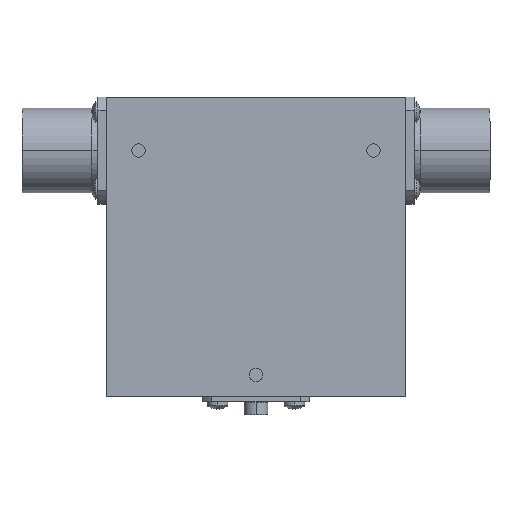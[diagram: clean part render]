
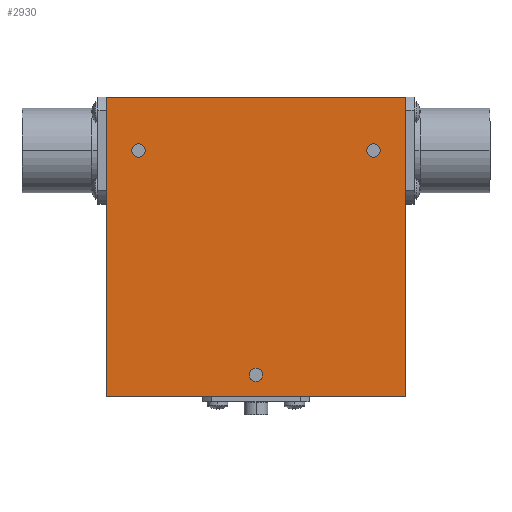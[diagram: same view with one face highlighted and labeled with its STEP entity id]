
A CAD part, top view. The second image highlights one B-rep face of the part: STEP entity #2930.
In plain terms, the highlighted planar face has unit normal (0, 0, 1).
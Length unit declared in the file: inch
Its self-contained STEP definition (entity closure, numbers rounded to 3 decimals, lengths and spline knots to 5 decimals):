
#111 = CARTESIAN_POINT ( 'NONE',  ( -1.4, 1.4, 0.5 ) ) ;
#116 = CARTESIAN_POINT ( 'NONE',  ( 1.1, 0.9, 0.5 ) ) ;
#151 = DIRECTION ( 'NONE',  ( 0., 1., 0. ) ) ;
#250 = CIRCLE ( 'NONE', #413, 0.0625 ) ;
#261 = CARTESIAN_POINT ( 'NONE',  ( -1.1, 0.9, 0.5 ) ) ;
#359 = DIRECTION ( 'NONE',  ( 0., 0., 1. ) ) ;
#370 = EDGE_CURVE ( 'NONE', #1626, #1276, #250, .T. ) ;
#390 = ORIENTED_EDGE ( 'NONE', *, *, #3705, .F. ) ;
#413 = AXIS2_PLACEMENT_3D ( 'NONE', #116, #3148, #1326 ) ;
#522 = ORIENTED_EDGE ( 'NONE', *, *, #2599, .T. ) ;
#555 = ORIENTED_EDGE ( 'NONE', *, *, #2412, .F. ) ;
#580 = DIRECTION ( 'NONE',  ( 1., 0., 0. ) ) ;
#749 = DIRECTION ( 'NONE',  ( 0., 0., 1. ) ) ;
#761 = DIRECTION ( 'NONE',  ( 1., 0., 0. ) ) ;
#801 = CARTESIAN_POINT ( 'NONE',  ( 1.4, 1.4, 0.5 ) ) ;
#843 = CARTESIAN_POINT ( 'NONE',  ( -1.4, -1.4, 0.5 ) ) ;
#901 = AXIS2_PLACEMENT_3D ( 'NONE', #261, #3087, #580 ) ;
#973 = DIRECTION ( 'NONE',  ( 1., 0., 0. ) ) ;
#1013 = CARTESIAN_POINT ( 'NONE',  ( 0., -1.2, 0.5 ) ) ;
#1041 = CARTESIAN_POINT ( 'NONE',  ( 1.0375, 0.9, 0.5 ) ) ;
#1116 = VERTEX_POINT ( 'NONE', #1502 ) ;
#1125 = CIRCLE ( 'NONE', #2509, 0.0625 ) ;
#1160 = EDGE_CURVE ( 'NONE', #3751, #1116, #1125, .T. ) ;
#1216 = EDGE_LOOP ( 'NONE', ( #1911, #3565 ) ) ;
#1253 = DIRECTION ( 'NONE',  ( 1., 0., 0. ) ) ;
#1276 = VERTEX_POINT ( 'NONE', #2421 ) ;
#1283 = CARTESIAN_POINT ( 'NONE',  ( -1.4, -1.4, 0.5 ) ) ;
#1311 = VERTEX_POINT ( 'NONE', #3945 ) ;
#1326 = DIRECTION ( 'NONE',  ( 1., 0., 0. ) ) ;
#1349 = EDGE_CURVE ( 'NONE', #1276, #1626, #2978, .T. ) ;
#1354 = VECTOR ( 'NONE', #151, 39.37008 ) ;
#1393 = EDGE_LOOP ( 'NONE', ( #1680, #1882 ) ) ;
#1404 = EDGE_CURVE ( 'NONE', #1731, #2043, #3269, .T. ) ;
#1407 = CARTESIAN_POINT ( 'NONE',  ( -1.4, 1.4, 0.5 ) ) ;
#1415 = CARTESIAN_POINT ( 'NONE',  ( 0., -1.2, 0.5 ) ) ;
#1502 = CARTESIAN_POINT ( 'NONE',  ( -1.0375, 0.9, 0.5 ) ) ;
#1518 = EDGE_LOOP ( 'NONE', ( #390, #555 ) ) ;
#1521 = LINE ( 'NONE', #3314, #3869 ) ;
#1528 = CARTESIAN_POINT ( 'NONE',  ( 0., 0., 0.5 ) ) ;
#1531 = FACE_BOUND ( 'NONE', #1518, .T. ) ;
#1622 = VERTEX_POINT ( 'NONE', #111 ) ;
#1626 = VERTEX_POINT ( 'NONE', #1041 ) ;
#1680 = ORIENTED_EDGE ( 'NONE', *, *, #1349, .F. ) ;
#1731 = VERTEX_POINT ( 'NONE', #843 ) ;
#1785 = ORIENTED_EDGE ( 'NONE', *, *, #2521, .T. ) ;
#1788 = CARTESIAN_POINT ( 'NONE',  ( 1.4, 1.4, 0.5 ) ) ;
#1825 = ORIENTED_EDGE ( 'NONE', *, *, #3938, .T. ) ;
#1838 = CARTESIAN_POINT ( 'NONE',  ( 1.4, -1.4, 0.5 ) ) ;
#1873 = PLANE ( 'NONE',  #2927 ) ;
#1879 = AXIS2_PLACEMENT_3D ( 'NONE', #1415, #3867, #761 ) ;
#1882 = ORIENTED_EDGE ( 'NONE', *, *, #370, .F. ) ;
#1911 = ORIENTED_EDGE ( 'NONE', *, *, #3471, .F. ) ;
#1963 = VECTOR ( 'NONE', #2260, 39.37008 ) ;
#2043 = VERTEX_POINT ( 'NONE', #1838 ) ;
#2104 = LINE ( 'NONE', #1407, #1963 ) ;
#2138 = DIRECTION ( 'NONE',  ( 1., 0., 0. ) ) ;
#2153 = VERTEX_POINT ( 'NONE', #1788 ) ;
#2164 = VECTOR ( 'NONE', #973, 39.37008 ) ;
#2166 = CARTESIAN_POINT ( 'NONE',  ( 1.1, 0.9, 0.5 ) ) ;
#2191 = CIRCLE ( 'NONE', #1879, 0.0625 ) ;
#2260 = DIRECTION ( 'NONE',  ( 0., -1., 0. ) ) ;
#2276 = CARTESIAN_POINT ( 'NONE',  ( -1.1625, 0.9, 0.5 ) ) ;
#2320 = ORIENTED_EDGE ( 'NONE', *, *, #1404, .T. ) ;
#2339 = LINE ( 'NONE', #801, #1354 ) ;
#2412 = EDGE_CURVE ( 'NONE', #1311, #2983, #3308, .T. ) ;
#2421 = CARTESIAN_POINT ( 'NONE',  ( 1.1625, 0.9, 0.5 ) ) ;
#2509 = AXIS2_PLACEMENT_3D ( 'NONE', #3882, #3002, #3320 ) ;
#2521 = EDGE_CURVE ( 'NONE', #2043, #2153, #2339, .T. ) ;
#2526 = FACE_BOUND ( 'NONE', #1393, .T. ) ;
#2599 = EDGE_CURVE ( 'NONE', #1622, #1731, #2104, .T. ) ;
#2625 = FACE_BOUND ( 'NONE', #1216, .T. ) ;
#2763 = DIRECTION ( 'NONE',  ( 0., 0., 1. ) ) ;
#2833 = DIRECTION ( 'NONE',  ( 1., 0., 0. ) ) ;
#2927 = AXIS2_PLACEMENT_3D ( 'NONE', #1528, #359, #2138 ) ;
#2930 = ADVANCED_FACE ( 'NONE', ( #2526, #1531, #2625, #3881 ), #1873, .T. ) ;
#2978 = CIRCLE ( 'NONE', #3742, 0.0625 ) ;
#2983 = VERTEX_POINT ( 'NONE', #3714 ) ;
#3002 = DIRECTION ( 'NONE',  ( 0., 0., 1. ) ) ;
#3087 = DIRECTION ( 'NONE',  ( 0., 0., 1. ) ) ;
#3100 = CIRCLE ( 'NONE', #901, 0.0625 ) ;
#3148 = DIRECTION ( 'NONE',  ( 0., 0., 1. ) ) ;
#3154 = AXIS2_PLACEMENT_3D ( 'NONE', #1013, #749, #2833 ) ;
#3269 = LINE ( 'NONE', #1283, #2164 ) ;
#3308 = CIRCLE ( 'NONE', #3154, 0.0625 ) ;
#3314 = CARTESIAN_POINT ( 'NONE',  ( -1.4, 1.4, 0.5 ) ) ;
#3320 = DIRECTION ( 'NONE',  ( 1., 0., 0. ) ) ;
#3448 = EDGE_LOOP ( 'NONE', ( #1785, #1825, #522, #2320 ) ) ;
#3471 = EDGE_CURVE ( 'NONE', #1116, #3751, #3100, .T. ) ;
#3565 = ORIENTED_EDGE ( 'NONE', *, *, #1160, .F. ) ;
#3596 = DIRECTION ( 'NONE',  ( -1., 0., 0. ) ) ;
#3705 = EDGE_CURVE ( 'NONE', #2983, #1311, #2191, .T. ) ;
#3714 = CARTESIAN_POINT ( 'NONE',  ( 0.0625, -1.2, 0.5 ) ) ;
#3742 = AXIS2_PLACEMENT_3D ( 'NONE', #2166, #2763, #1253 ) ;
#3751 = VERTEX_POINT ( 'NONE', #2276 ) ;
#3867 = DIRECTION ( 'NONE',  ( 0., 0., 1. ) ) ;
#3869 = VECTOR ( 'NONE', #3596, 39.37008 ) ;
#3881 = FACE_OUTER_BOUND ( 'NONE', #3448, .T. ) ;
#3882 = CARTESIAN_POINT ( 'NONE',  ( -1.1, 0.9, 0.5 ) ) ;
#3938 = EDGE_CURVE ( 'NONE', #2153, #1622, #1521, .T. ) ;
#3945 = CARTESIAN_POINT ( 'NONE',  ( -0.0625, -1.2, 0.5 ) ) ;
